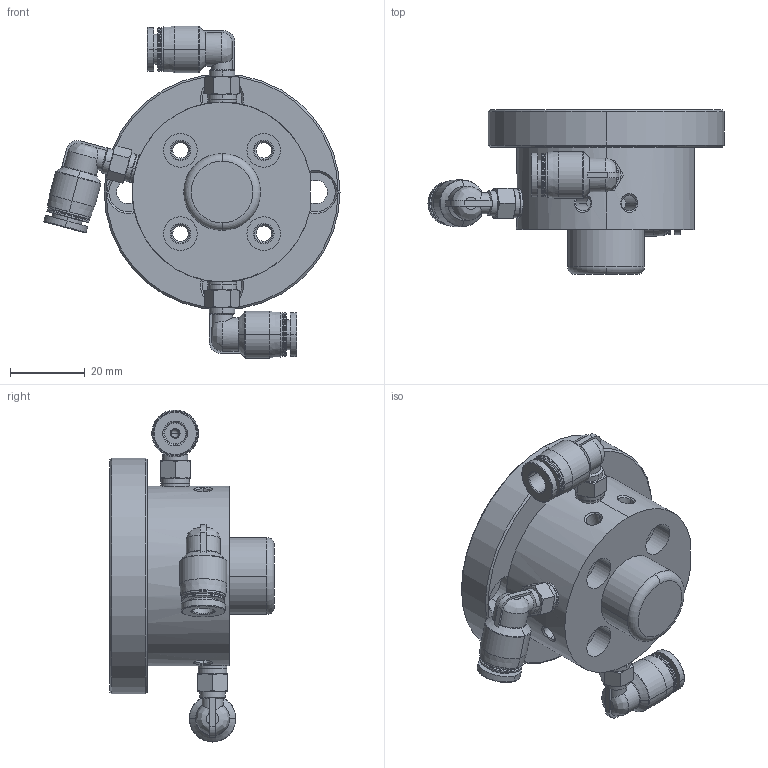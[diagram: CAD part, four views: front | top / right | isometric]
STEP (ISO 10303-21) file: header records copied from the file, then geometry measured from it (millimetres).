
FILE_DESCRIPTION (( 'STEP AP214' ), '1' );
FILE_NAME ('QCM_02R.STEP', '2019-12-04T09:28:15', ( '微软用户' ), ( '微软中国' ), 'SwSTEP 2.0', 'SolidWorks 2016', '' );
FILE_SCHEMA (( 'AUTOMOTIVE_DESIGN' ));
Length unit declared in the file: millimetre
Products named in the file (1): QCM_02R
Bounding box: 79.08 x 44 x 88.7 mm (x, y, z)
Volume: 70473.3 mm3; surface area: 22941.1 mm2
Topology: 4 solids, 4 shells, 440 faces, 990 edges, 590 vertices
Faces by surface type: cone 149, cylinder 145, plane 102, torus 35, bspline 6, sphere 3
Entity records: 18030 total; most frequent: CARTESIAN_POINT 3333, DIRECTION 2148, ORIENTED_EDGE 1968, EDGE_CURVE 984, AXIS2_PLACEMENT_3D 917, VERTEX_POINT 590, EDGE_LOOP 504, CIRCLE 482
